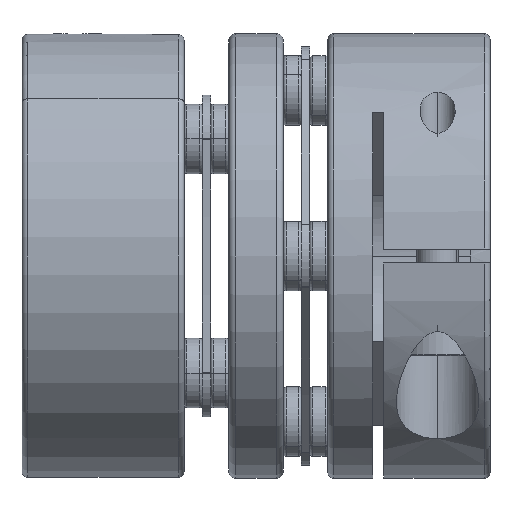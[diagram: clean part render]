
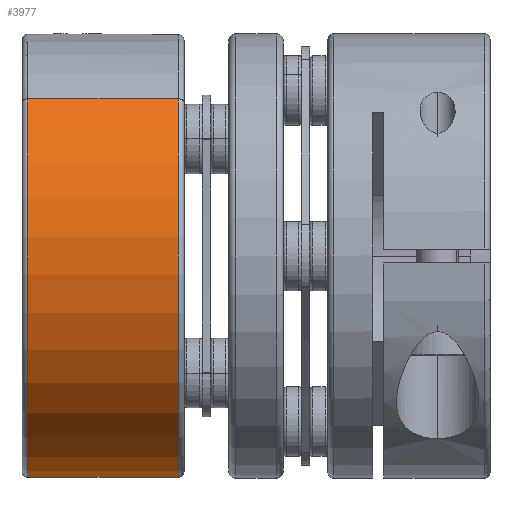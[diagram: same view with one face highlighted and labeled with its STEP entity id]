
A CAD part, left-side view. The second image highlights one B-rep face of the part: STEP entity #3977.
In plain terms, the highlighted cylindrical face has radius 15.9 mm (diameter 31.8 mm), a partial arc.
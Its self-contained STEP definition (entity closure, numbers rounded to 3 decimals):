
#3977 = ADVANCED_FACE ( 'NONE', ( #13781 ), #13803, .T. ) ;
#6381 = EDGE_CURVE ( 'NONE', #9900, #9920, #14485, .T. ) ;
#7076 = ORIENTED_EDGE ( 'NONE', *, *, #9059, .T. ) ;
#7177 = ORIENTED_EDGE ( 'NONE', *, *, #6381, .T. ) ;
#7214 = ORIENTED_EDGE ( 'NONE', *, *, #11633, .F. ) ;
#7215 = ORIENTED_EDGE ( 'NONE', *, *, #9105, .F. ) ;
#7225 = ORIENTED_EDGE ( 'NONE', *, *, #9109, .T. ) ;
#7425 = ORIENTED_EDGE ( 'NONE', *, *, #11641, .T. ) ;
#7435 = ORIENTED_EDGE ( 'NONE', *, *, #9115, .F. ) ;
#7448 = ORIENTED_EDGE ( 'NONE', *, *, #11628, .F. ) ;
#9059 = EDGE_CURVE ( 'NONE', #11755, #11752, #18444, .T. ) ;
#9105 = EDGE_CURVE ( 'NONE', #11756, #11752, #18481, .T. ) ;
#9109 = EDGE_CURVE ( 'NONE', #11783, #11755, #18486, .T. ) ;
#9115 = EDGE_CURVE ( 'NONE', #11772, #11764, #18487, .T. ) ;
#9900 = VERTEX_POINT ( 'NONE', #20396 ) ;
#9920 = VERTEX_POINT ( 'NONE', #20411 ) ;
#10478 = EDGE_LOOP ( 'NONE', ( #7435, #7425, #7225, #7076, #7215, #7214, #7177, #7448 ) ) ;
#11628 = EDGE_CURVE ( 'NONE', #11764, #9920, #22322, .T. ) ;
#11633 = EDGE_CURVE ( 'NONE', #9900, #11756, #22334, .T. ) ;
#11641 = EDGE_CURVE ( 'NONE', #11772, #11783, #22343, .T. ) ;
#11752 = VERTEX_POINT ( 'NONE', #22128 ) ;
#11755 = VERTEX_POINT ( 'NONE', #22134 ) ;
#11756 = VERTEX_POINT ( 'NONE', #22123 ) ;
#11764 = VERTEX_POINT ( 'NONE', #22140 ) ;
#11772 = VERTEX_POINT ( 'NONE', #22148 ) ;
#11783 = VERTEX_POINT ( 'NONE', #22159 ) ;
#12697 = DIRECTION ( 'NONE',  ( -0.707, 0., 0.707 ) ) ;
#12699 = DIRECTION ( 'NONE',  ( 0., 1., 0. ) ) ;
#12701 = CARTESIAN_POINT ( 'NONE',  ( 0., 7.1, 0. ) ) ;
#12836 = AXIS2_PLACEMENT_3D ( 'NONE', #12701, #12699, #12697 ) ;
#13593 = AXIS2_PLACEMENT_3D ( 'NONE', #19821, #19823, #19825 ) ;
#13781 = FACE_OUTER_BOUND ( 'NONE', #10478, .T. ) ;
#13803 = CYLINDRICAL_SURFACE ( 'NONE', #12836, 15.9 ) ;
#14485 = LINE ( 'NONE', #16739, #14494 ) ;
#14494 = VECTOR ( 'NONE', #16752, 1000. ) ;
#16739 = CARTESIAN_POINT ( 'NONE',  ( 1.3, 7.1, -15.847 ) ) ;
#16752 = DIRECTION ( 'NONE',  ( 0., -1., 0. ) ) ;
#18444 = CIRCLE ( 'NONE', #13593, 15.9 ) ;
#18481 = LINE ( 'NONE', #19955, #18483 ) ;
#18483 = VECTOR ( 'NONE', #19941, 1000. ) ;
#18484 = VECTOR ( 'NONE', #20037, 1000. ) ;
#18486 = LINE ( 'NONE', #20036, #18484 ) ;
#18487 = LINE ( 'NONE', #20050, #18495 ) ;
#18495 = VECTOR ( 'NONE', #20044, 1000. ) ;
#19821 = CARTESIAN_POINT ( 'NONE',  ( 0., 18.3, 0. ) ) ;
#19823 = DIRECTION ( 'NONE',  ( 0., -1., 0. ) ) ;
#19825 = DIRECTION ( 'NONE',  ( -0.707, 0., 0.707 ) ) ;
#19941 = DIRECTION ( 'NONE',  ( 0., 1., 0. ) ) ;
#19955 = CARTESIAN_POINT ( 'NONE',  ( 11.243, 7.1, -11.243 ) ) ;
#20036 = CARTESIAN_POINT ( 'NONE',  ( -11.243, 7.1, 11.243 ) ) ;
#20037 = DIRECTION ( 'NONE',  ( 0., 1., 0. ) ) ;
#20044 = DIRECTION ( 'NONE',  ( 0., 1., 0. ) ) ;
#20050 = CARTESIAN_POINT ( 'NONE',  ( 11.243, 7.1, -11.243 ) ) ;
#20396 = CARTESIAN_POINT ( 'NONE',  ( 1.3, 11.1, -15.847 ) ) ;
#20411 = CARTESIAN_POINT ( 'NONE',  ( 1.3, 10.3, -15.847 ) ) ;
#21147 = AXIS2_PLACEMENT_3D ( 'NONE', #21813, #21814, #21815 ) ;
#21150 = AXIS2_PLACEMENT_3D ( 'NONE', #21828, #21829, #21830 ) ;
#21155 = AXIS2_PLACEMENT_3D ( 'NONE', #21849, #21850, #21851 ) ;
#21813 = CARTESIAN_POINT ( 'NONE',  ( 0., 10.3, 0. ) ) ;
#21814 = DIRECTION ( 'NONE',  ( 0., 1., 0. ) ) ;
#21815 = DIRECTION ( 'NONE',  ( 0.707, 0., 0.707 ) ) ;
#21828 = CARTESIAN_POINT ( 'NONE',  ( 0., 11.1, 0. ) ) ;
#21829 = DIRECTION ( 'NONE',  ( 0., -1., 0. ) ) ;
#21830 = DIRECTION ( 'NONE',  ( -0.707, 0., -0.707 ) ) ;
#21849 = CARTESIAN_POINT ( 'NONE',  ( 0., 7.5, 0. ) ) ;
#21850 = DIRECTION ( 'NONE',  ( 0., 1., 0. ) ) ;
#21851 = DIRECTION ( 'NONE',  ( -0.707, 0., 0.707 ) ) ;
#22123 = CARTESIAN_POINT ( 'NONE',  ( 11.243, 11.1, -11.243 ) ) ;
#22128 = CARTESIAN_POINT ( 'NONE',  ( 11.243, 18.3, -11.243 ) ) ;
#22134 = CARTESIAN_POINT ( 'NONE',  ( -11.243, 18.3, 11.243 ) ) ;
#22140 = CARTESIAN_POINT ( 'NONE',  ( 11.243, 10.3, -11.243 ) ) ;
#22148 = CARTESIAN_POINT ( 'NONE',  ( 11.243, 7.5, -11.243 ) ) ;
#22159 = CARTESIAN_POINT ( 'NONE',  ( -11.243, 7.5, 11.243 ) ) ;
#22322 = CIRCLE ( 'NONE', #21147, 15.9 ) ;
#22334 = CIRCLE ( 'NONE', #21150, 15.9 ) ;
#22343 = CIRCLE ( 'NONE', #21155, 15.9 ) ;
